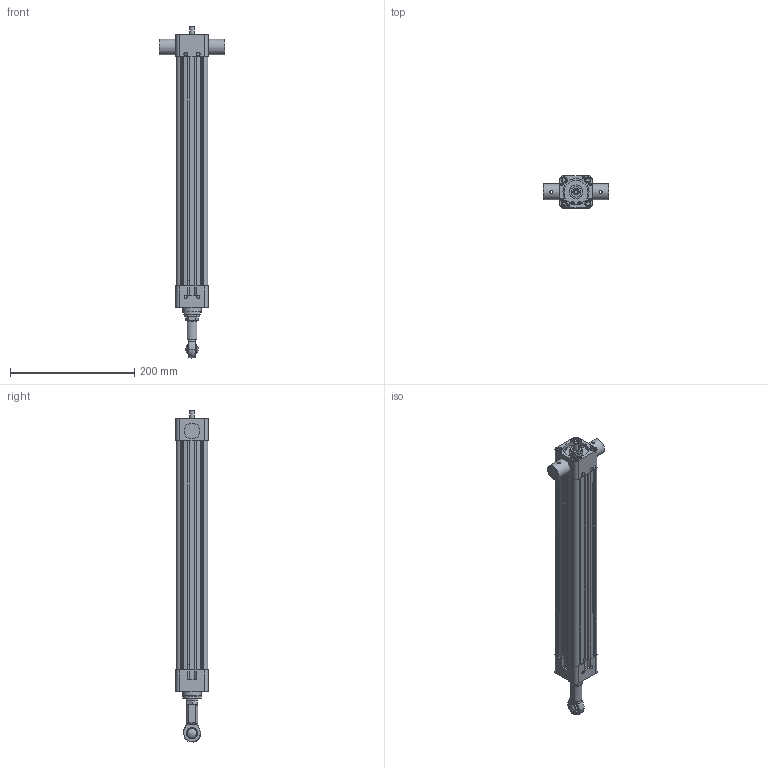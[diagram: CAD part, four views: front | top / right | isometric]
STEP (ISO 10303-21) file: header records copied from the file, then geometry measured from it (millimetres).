
FILE_DESCRIPTION (( 'STEP AP203' ), '1' );
FILE_NAME ('RSA24_BNL05_SK12.000_RS-474975-1.step', '2024-11-14T14:40:11', ( '' ), ( '' ), 'SwSTEP 2.0', 'SolidWorks 2024', '' );
FILE_SCHEMA (( 'CONFIG_CONTROL_DESIGN' ));
Length unit declared in the file: inch
Products named in the file (4): Base_RSA24_BNL05_SK12.000_RS-474975-1; tempJoin1_11249083_RSA24_BNL05_SK12.000_RS-474975-1; RSA24_BNL05_SK12.000_RS-474975-1; 11249028_RSA24_BNL05_SK12.000_RS-474975-1
Assembly tree (3 placements, depth 2):
  RSA24_BNL05_SK12.000_RS-474975-1
    11249028_RSA24_BNL05_SK12.000_RS-474975-1
    tempJoin1_11249083_RSA24_BNL05_SK12.000_RS-474975-1
    Base_RSA24_BNL05_SK12.000_RS-474975-1
Bounding box: 104.65 x 51.82 x 534.27 mm (x, y, z)
Volume: 901411.4 mm3; surface area: 222149.1 mm2
Topology: 4 solids, 7 shells, 391 faces, 944 edges, 621 vertices
Faces by surface type: plane 240, cylinder 108, cone 35, bspline 8
Full cylindrical faces by diameter (mm): 1.981 x2, 3.175 x1, 3.3 x4, 3.797 x4, 3.988 x2, 4 x4, 4.572 x2, 5.105 x4, 6.35 x2, 7.973 x1, 8.5 x8, 9.601 x1, 9.652 x8, 9.906 x1, 9.921 x4, 10.008 x2, 11.112 x2, 11.113 x1, 21.844 x1, 25.39 x2, 29.769 x1, 29.997 x2, 36.449 x1, 41.275 x2, 42.065 x1, 45.034 x1
Entity records: 11851 total; most frequent: CARTESIAN_POINT 2805, DIRECTION 1786, ORIENTED_EDGE 1614, EDGE_CURVE 807, AXIS2_PLACEMENT_3D 633, VERTEX_POINT 582, EDGE_LOOP 553, VECTOR 520
